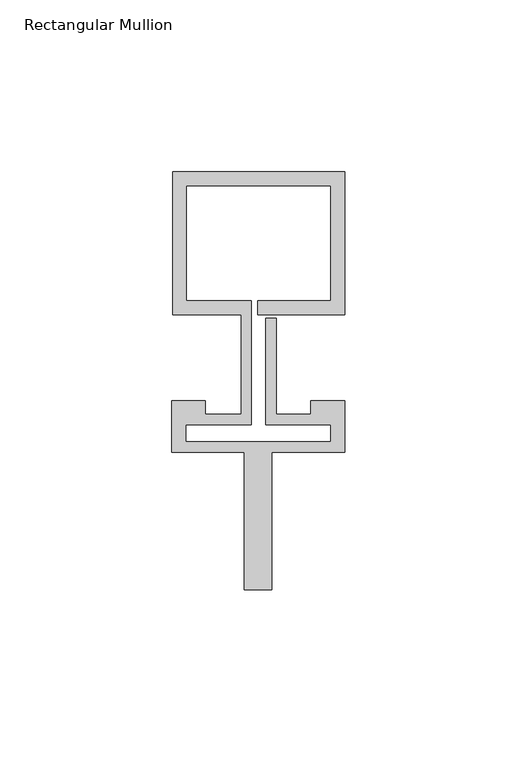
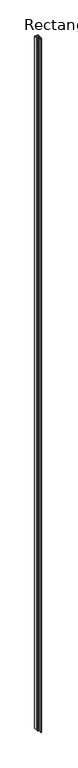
"""IFC4 building model written with IfcOpenShell, lengths in millimetres: member geometry, Rectangular Mullion : Reynaers_CW-50_Mullion-Transom_Vertical_41.5mm_Facecap-06B."""

from ifc_helpers import new_model, si_unit, frame, origin, place, context, project, spatial, polyline, outline, extrude, source, transform, mapped, element, save


def rectangular_mullion_6fd50402(model_context):
    return source(origin(), model_context, "Body", "SweptSolid", [
        extrude(outline(polyline([(-24.8004059, 54.0), (25.1995941, 54.0), (25.1995941, 12.5), (0.0, 12.5), (0.0, 16.5), (21.1995941, 16.5), (21.1995941, 50.0), (-20.8004059, 50.0), (-20.8004059, 16.5), (-1.9004059, 16.5), (-1.9004059, -19.5), (-20.994845, -19.5), (-20.994845, -24.4191338), (21.1995941, -24.4191338), (21.1995941, -19.5), (2.2995941, -19.5), (2.2995941, 11.5), (5.2995941, 11.5), (5.2995941, -16.5), (15.2996495, -16.5), (15.2996495, -12.5), (25.1995941, -12.5), (25.1995941, -27.5), (4.004855, -27.5), (4.004855, -67.5), (-3.995145, -67.5), (-3.995145, -27.5), (-24.994845, -27.5), (-24.994845, -12.5), (-15.2996495, -12.5), (-15.2996495, -16.5), (-4.9004059, -16.5), (-4.9004059, 12.5), (-24.8004059, 12.5), (-24.8004059, 54.0)])), frame((0.0, 0.0, -10400.0), z_axis=(0.0, 0.0, 1.0), x_axis=(1.0, 0.0, 0.0)), (0.0, 0.0, 1.0), 10400.0),
    ])


if __name__ == "__main__":
    model = new_model("IFC4")
    model_context = context("Model", 3, world=origin())
    ifc_project = project(units=[si_unit("LENGTHUNIT", "METRE", prefix="MILLI")], contexts=[model_context])
    site = spatial("IfcSite", under=ifc_project)
    building = spatial("IfcBuilding", under=site)
    placement = place(None, origin())
    rectangular_mullion_shape = rectangular_mullion_6fd50402(model_context)
    element("IfcMember", 1, ObjectType="Rectangular Mullion : Reynaers_CW-50_Mullion-Transom_Vertical_41.5mm_Facecap-06B", at=placement, inside=building, context=model_context, shape_type="MappedRepresentation", body=[
        mapped(rectangular_mullion_shape, transform((0.0, 0.0, 0.0), x_axis=(1.0, 0.0, 0.0), y_axis=(0.0, 1.0, 0.0), z_axis=(0.0, 0.0, 1.0))),
    ])
    save(model, "model.ifc")
